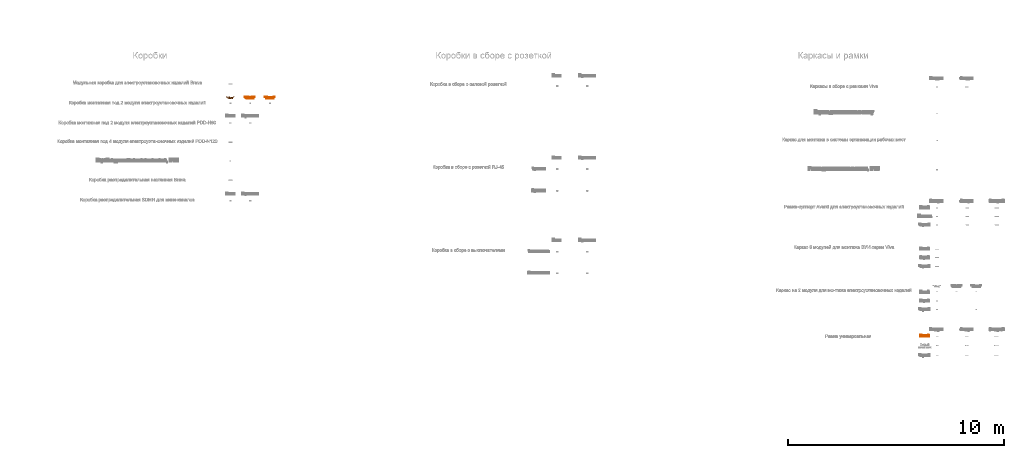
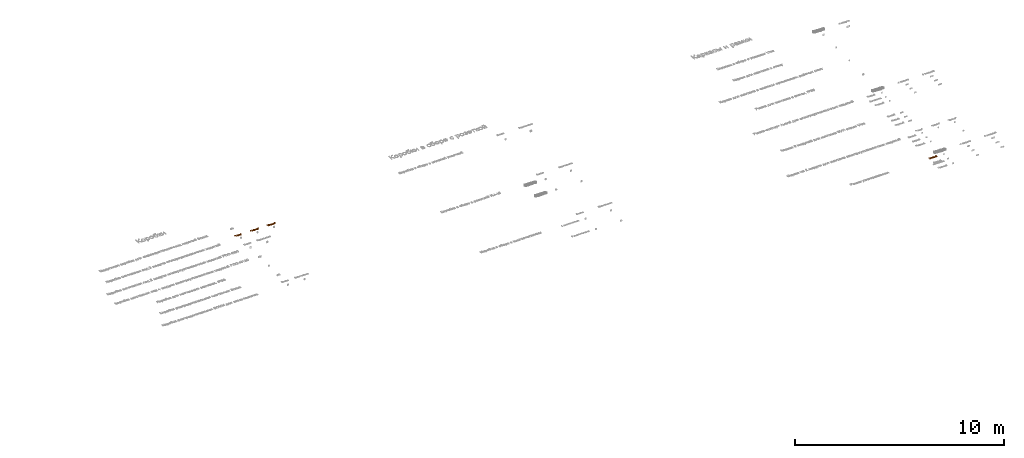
# One storey, part 59 of 87: 4 proxies.
"""IFC2X3 building model written with IfcOpenShell, lengths in millimetres."""

from ifc_helpers import new_model, entity, si_unit, converted_unit, derived_unit, direction, frame, frame_2d, origin, origin_2d_with_axis, place, context, subcontext, project, spatial, polyline, rectangle, outline, extrude, element, save


model = new_model("IFC2X3")

# Units and contexts
model_context = context("Model", 3, precision=0.01, world=origin(), true_north=direction((6.12303176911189e-17, 1.0)))
body_context = subcontext(model_context, "Body", "Model", "MODEL_VIEW")
ifc_project = project(units=[si_unit("LENGTHUNIT", "METRE", prefix="MILLI"), si_unit("AREAUNIT", "SQUARE_METRE"), si_unit("VOLUMEUNIT", "CUBIC_METRE"), converted_unit("PLANEANGLEUNIT", "DEGREE", entity("IfcRatioMeasure", 0.0174532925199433), si_unit("PLANEANGLEUNIT", "RADIAN"), dimensions=[0, 0, 0, 0, 0, 0, 0]), si_unit("MASSUNIT", "GRAM", prefix="KILO"), derived_unit("MASSDENSITYUNIT", [(si_unit("MASSUNIT", "GRAM", prefix="KILO"), 1), (si_unit("LENGTHUNIT", "METRE"), -3)]), si_unit("TIMEUNIT", "SECOND"), si_unit("FREQUENCYUNIT", "HERTZ"), si_unit("THERMODYNAMICTEMPERATUREUNIT", "DEGREE_CELSIUS"), derived_unit("THERMALTRANSMITTANCEUNIT", [(si_unit("MASSUNIT", "GRAM", prefix="KILO"), 1), (si_unit("THERMODYNAMICTEMPERATUREUNIT", "KELVIN"), -1), (si_unit("TIMEUNIT", "SECOND"), -3)]), derived_unit("VOLUMETRICFLOWRATEUNIT", [(si_unit("LENGTHUNIT", "METRE"), 3), (si_unit("TIMEUNIT", "SECOND"), -1)]), si_unit("ELECTRICCURRENTUNIT", "AMPERE"), si_unit("ELECTRICVOLTAGEUNIT", "VOLT"), si_unit("POWERUNIT", "WATT"), si_unit("FORCEUNIT", "NEWTON", prefix="KILO"), si_unit("ILLUMINANCEUNIT", "LUX"), si_unit("LUMINOUSFLUXUNIT", "LUMEN"), si_unit("LUMINOUSINTENSITYUNIT", "CANDELA"), derived_unit("USERDEFINED", [(si_unit("MASSUNIT", "GRAM", prefix="KILO"), -1), (si_unit("LENGTHUNIT", "METRE"), -2), (si_unit("TIMEUNIT", "SECOND"), 3), (si_unit("LUMINOUSFLUXUNIT", "LUMEN"), 1)]), derived_unit("LINEARVELOCITYUNIT", [(si_unit("LENGTHUNIT", "METRE"), 1), (si_unit("TIMEUNIT", "SECOND"), -1)]), si_unit("PRESSUREUNIT", "PASCAL"), derived_unit("USERDEFINED", [(si_unit("LENGTHUNIT", "METRE"), -2), (si_unit("MASSUNIT", "GRAM", prefix="KILO"), 1), (si_unit("TIMEUNIT", "SECOND"), -2)])], contexts=[model_context])

# Site, building, storey
site_placement = place(None, origin())
site = spatial("IfcSite", under=ifc_project, at=site_placement, Name="Default", CompositionType="ELEMENT")
building_placement = place(site_placement, origin())
building = spatial("IfcBuilding", under=site, at=building_placement, Name="Наименование здания", CompositionType="ELEMENT")
storey_placement = place(building_placement, origin())
storey = spatial("IfcBuildingStorey", under=building, at=storey_placement, Name="Этаж 01", CompositionType="ELEMENT", Elevation=0.0)

# Proxies
proxy_1_placement = place(storey_placement, origin())
element("IfcBuildingElementProxy", 1, at=proxy_1_placement, inside=storey, Name="Текст модели:100 мм Arial", ObjectType="Текст модели:100 мм Arial", context=body_context, shape_type="SweptSolid", body=[
    extrude(outline(polyline([(-3.26597460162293, -18.5003767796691), (3.47852864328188, -18.5003767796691), (6.22538087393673, 0.899267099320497), (6.22538087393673, 17.601109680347), (-6.3316578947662, 17.601109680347), (-6.3316578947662, 0.899267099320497), (-3.26597460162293, -18.5003767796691)])), frame((44429.8015234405, 3429.40875334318, 0.0)), (0.0, 0.0, 1.0), 20.0),
    extrude(outline(polyline([(-5.82071067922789, -52.1956424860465), (7.1532610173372, -52.1956424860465), (45.4375139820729, 48.2606676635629), (31.9975584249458, 48.2606676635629), (5.16669824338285, -24.1139835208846), (-0.179853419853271, -40.4234186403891), (-5.59998148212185, -24.1139835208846), (-32.3572652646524, 48.2606676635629), (-45.7972208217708, 48.2606676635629), (-5.82071067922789, -52.1956424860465)])), frame((44513.9034351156, 3398.74919535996, 0.0)), (0.0, 0.0, 1.0), 20.0),
    extrude(rectangle(XDim=12.5570387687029, YDim=73.7726027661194, at=frame_2d((0.0, -2.70006239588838e-13), x_axis=(1.0, 0.0))), frame((44575.7239606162, 3383.43985425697, 0.0)), (0.0, 0.0, 1.0), 20.0),
    extrude(outline(polyline([(-7.82362376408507, -40.9030277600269), (8.09340389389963, -40.9030277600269), (33.72251622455, 32.8695750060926), (20.4297134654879, 32.8695750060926), (4.61078767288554, -12.1591812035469), (-0.0245254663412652, -26.1877479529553), (-4.75794047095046, -11.3253153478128), (-20.4787643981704, 32.8695750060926), (-33.7715671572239, 32.8695750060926), (-7.82362376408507, -40.9030277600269)])), frame((44626.7614560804, 3387.45658063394, 0.0)), (0.0, 0.0, 1.0), 20.0),
    extrude(outline(polyline([(32.0508237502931, 7.88266535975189), (41.9780345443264, 7.88266535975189), (45.9489188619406, 19.795318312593), (35.1414436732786, 20.7608946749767), (14.2438893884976, 27.0545912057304), (-0.577126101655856, 31.9949297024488), (-11.1945882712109, 34.8877809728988), (-20.497470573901, 33.9299602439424), (-28.5323068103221, 27.5470739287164), (-35.4619652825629, 13.8157249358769), (-38.3044049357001, -2.69989645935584), (-34.9462156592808, -15.3493345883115), (-25.0306383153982, -24.3807697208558), (-19.5706723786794, -12.9644773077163), (-25.7868125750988, -4.50695904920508), (-24.0611841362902, 8.30922519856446), (-16.2279943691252, 20.3304570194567), (-6.33956174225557, 20.6794605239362), (-3.71040200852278, 19.7255176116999), (-6.50243004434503, -2.30048133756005), (-8.14662433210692, -13.2049019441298), (-7.01817966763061, -22.8490321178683), (-2.17478658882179, -31.1204151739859), (6.48825595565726, -36.5416029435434), (15.0010331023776, -37.702039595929), (22.9495879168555, -35.3200906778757), (29.6378522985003, -29.3899394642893), (34.369758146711, -19.9057692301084), (36.2737661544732, -6.36055543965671), (32.0508237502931, 7.88266535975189)]), holes=[polyline([(8.2255178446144, 15.824433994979), (11.5759514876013, 14.6300664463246), (20.1614376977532, 9.67421668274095), (24.4696920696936, -0.396473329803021), (23.3024692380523, -13.3987927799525), (17.249197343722, -22.9498553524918), (9.62153186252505, -24.3497471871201), (5.58084684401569, -21.1932043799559), (3.98706417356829, -15.504447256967), (5.47226797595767, -4.61166010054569), (8.2255178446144, 15.824433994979)])]), frame((44700.9467632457, 3383.88469547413, 0.0), z_axis=(0.0, 0.0, 1.0), x_axis=(0.316227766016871, -0.948683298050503, 0.0)), (0.0, 0.0, 1.0), 20.0),
    extrude(outline(polyline([(-3.26597460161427, -18.5003767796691), (3.47852864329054, -18.5003767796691), (6.22538087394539, 0.899267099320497), (6.22538087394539, 17.601109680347), (-6.33165789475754, 17.601109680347), (-6.33165789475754, 0.899267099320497), (-3.26597460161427, -18.5003767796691)])), frame((44751.5756418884, 3429.40875334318, 0.0)), (0.0, 0.0, 1.0), 20.0),
    extrude(outline(polyline([(-3.2945876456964, -18.5003767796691), (3.32728826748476, -18.5003767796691), (6.27034422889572, 0.899267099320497), (6.27034422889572, 17.601109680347), (-6.28669453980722, 17.601109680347), (-6.28669453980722, 0.899267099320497), (-3.2945876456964, -18.5003767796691)])), frame((44454.8706376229, 3429.40875334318, 0.0)), (0.0, 0.0, 1.0), 20.0),
    extrude(outline(polyline([(-3.29458764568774, -18.5003767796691), (3.32728826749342, -18.5003767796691), (6.27034422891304, 0.899267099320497), (6.27034422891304, 17.601109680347), (-6.28669453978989, 17.601109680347), (-6.28669453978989, 0.899267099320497), (-3.29458764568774, -18.5003767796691)])), frame((44776.6447560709, 3429.40875334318, 0.0)), (0.0, 0.0, 1.0), 20.0),
    extrude(rectangle(XDim=12.5570387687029, YDim=12.5570387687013, at=frame_2d((0.0, 2.70450328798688e-13), x_axis=(1.0, 0.0))), frame((44575.7239606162, 3440.73134363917, 0.0)), (0.0, 0.0, 1.0), 20.0),
])
proxy_2_placement = place(storey_placement, origin())
element("IfcBuildingElementProxy", 2, at=proxy_2_placement, inside=storey, Name="Текст модели:100 мм Arial", ObjectType="Текст модели:100 мм Arial", context=body_context, shape_type="SweptSolid", body=[
    extrude(outline(polyline([(-3.26597460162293, -18.500376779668), (3.47852864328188, -18.500376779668), (6.22538087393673, 0.89926709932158), (6.22538087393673, 17.6011096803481), (-6.3316578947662, 17.6011096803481), (-6.3316578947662, 0.89926709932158), (-3.26597460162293, -18.500376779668)])), frame((45293.8922013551, 3429.40875334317, 0.0)), (0.0, 0.0, 1.0), 20.0),
    extrude(outline(polyline([(-1.14154897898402, -36.3868737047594), (11.4154897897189, -36.3868737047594), (11.4154897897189, -12.8424260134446), (23.9725285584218, -12.8424260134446), (23.9725285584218, -0.285387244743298), (11.4154897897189, -0.285387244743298), (11.4154897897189, 62.4998065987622), (1.99771071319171, 62.4998065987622), (-46.6608145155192, -0.285387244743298), (-46.6608145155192, -12.8424260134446), (-1.14154897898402, -12.8424260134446), (-1.14154897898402, -36.3868737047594)]), holes=[polyline([(-1.14154897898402, -0.285387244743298), (-31.2097707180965, -0.285387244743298), (-1.14154897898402, 38.5139005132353), (-1.14154897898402, -0.285387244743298)])]), frame((45379.7406235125, 3382.94042657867, 0.0)), (0.0, 0.0, 1.0), 20.0),
    extrude(outline(polyline([(3.81439562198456, -37.2548959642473), (15.7323946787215, -37.2548959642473), (26.1588137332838, -33.0579698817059), (34.2921694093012, -25.0537205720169), (39.3309783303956, -13.631750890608), (40.2219288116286, 1.43409098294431), (34.3991305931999, 14.6815107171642), (25.5350217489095, 23.1481891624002), (13.9054384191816, 28.2770976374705), (0.912111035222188, 29.4702838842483), (-10.7159258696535, 25.7768606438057), (-19.74270741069, 18.0989984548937), (-24.9322687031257, 7.33886785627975), (-25.5937300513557, -2.21124798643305), (-22.6370240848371, -12.2793380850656), (-47.992493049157, 0.0204883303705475), (-38.0977082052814, 37.2324069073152), (-50.2330599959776, 40.4592412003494), (-62.7370428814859, -6.56524698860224), (-15.5021967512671, -30.4943712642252), (-10.7584434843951, -18.7623737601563), (-14.4216298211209, -10.4922324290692), (-13.698161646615, 0.722667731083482), (-9.98738154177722, 9.3572756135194), (-4.32553373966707, 14.6878856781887), (11.437063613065, 15.9400687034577), (19.748168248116, 12.2772427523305), (25.4355726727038, 6.40632241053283), (28.0665145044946, -1.27212018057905), (27.2082313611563, -10.3575128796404), (19.6530635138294, -21.9256319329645), (5.52431094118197, -24.7161898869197), (3.81439562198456, -37.2548959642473)])), frame((45449.7241723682, 3386.49710692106, 0.0), z_axis=(0.0, 0.0, 1.0), x_axis=(0.256974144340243, -0.966418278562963, 0.0)), (0.0, 0.0, 1.0), 20.0),
    extrude(outline(polyline([(-34.5302215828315, -38.4265006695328), (-19.4225343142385, -38.4265006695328), (-0.341721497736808, -12.0616243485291), (2.47870713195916, -16.1328517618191), (17.8561745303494, -38.4265006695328), (32.9638617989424, -38.4265006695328), (7.40832586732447, -1.34399555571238), (33.9448804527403, 35.3461020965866), (18.8371931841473, 35.3461020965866), (4.95577923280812, 16.1671874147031), (0.026160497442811, 9.34910777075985), (-5.663747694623, 17.6877663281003), (-17.8529044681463, 35.3461020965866), (-32.9605917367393, 35.3461020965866), (-7.69936140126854, -1.34399555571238), (-34.5302215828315, -38.4265006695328)])), frame((45521.4337554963, 3384.98005354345, 0.0)), (0.0, 0.0, 1.0), 20.0),
    extrude(outline(polyline([(-1.14154897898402, -36.3868737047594), (11.4154897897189, -36.3868737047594), (11.4154897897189, -12.8424260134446), (23.9725285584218, -12.8424260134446), (23.9725285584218, -0.285387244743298), (11.4154897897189, -0.285387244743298), (11.4154897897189, 62.4998065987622), (1.99771071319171, 62.4998065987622), (-46.6608145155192, -0.285387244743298), (-46.6608145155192, -12.8424260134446), (-1.14154897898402, -12.8424260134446), (-1.14154897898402, -36.3868737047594)]), holes=[polyline([(-1.14154897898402, -0.285387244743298), (-31.2097707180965, -0.285387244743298), (-1.14154897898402, 38.5139005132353), (-1.14154897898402, -0.285387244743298)])]), frame((45604.197691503, 3382.94042657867, 0.0)), (0.0, 0.0, 1.0), 20.0),
    extrude(outline(polyline([(3.81439562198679, -37.254895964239), (15.7323946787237, -37.254895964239), (26.158813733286, -33.0579698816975), (34.2921694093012, -25.0537205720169), (39.3309783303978, -13.6317508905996), (40.2219288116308, 1.43409098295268), (34.3991305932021, 14.6815107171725), (25.5350217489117, 23.1481891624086), (13.9054384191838, 28.2770976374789), (0.912111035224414, 29.4702838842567), (-10.7159258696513, 25.7768606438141), (-19.7427074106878, 18.0989984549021), (-24.9322687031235, 7.33886785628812), (-25.5937300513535, -2.21124798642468), (-22.6370240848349, -12.2793380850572), (-47.9924930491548, 0.0204883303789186), (-38.0977082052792, 37.2324069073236), (-50.2330599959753, 40.4592412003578), (-62.7370428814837, -6.56524698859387), (-15.5021967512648, -30.4943712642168), (-10.7584434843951, -18.7623737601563), (-14.4216298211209, -10.4922324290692), (-13.698161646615, 0.722667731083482), (-9.987381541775, 9.35727561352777), (-4.32553373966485, 14.6878856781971), (11.4370636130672, 15.9400687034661), (19.748168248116, 12.2772427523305), (25.4355726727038, 6.40632241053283), (28.0665145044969, -1.27212018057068), (27.2082313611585, -10.357512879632), (19.6530635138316, -21.9256319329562), (5.52431094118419, -24.7161898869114), (3.81439562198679, -37.254895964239)])), frame((45674.1812403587, 3386.49710692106, 0.0), z_axis=(0.0, 0.0, 1.0), x_axis=(0.256974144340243, -0.966418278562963, 0.0)), (0.0, 0.0, 1.0), 20.0),
    extrude(outline(polyline([(-3.26597460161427, -18.500376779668), (3.47852864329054, -18.500376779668), (6.22538087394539, 0.89926709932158), (6.22538087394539, 17.6011096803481), (-6.33165789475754, 17.6011096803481), (-6.33165789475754, 0.89926709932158), (-3.26597460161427, -18.500376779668)])), frame((45722.4011493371, 3429.40875334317, 0.0)), (0.0, 0.0, 1.0), 20.0),
    extrude(outline(polyline([(-3.2945876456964, -18.500376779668), (3.32728826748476, -18.500376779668), (6.27034422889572, 0.89926709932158), (6.27034422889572, 17.6011096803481), (-6.28669453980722, 17.6011096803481), (-6.28669453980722, 0.89926709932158), (-3.2945876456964, -18.500376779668)])), frame((45318.9613155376, 3429.40875334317, 0.0)), (0.0, 0.0, 1.0), 20.0),
    extrude(outline(polyline([(-3.29458764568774, -18.500376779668), (3.32728826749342, -18.500376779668), (6.27034422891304, 0.89926709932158), (6.27034422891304, 17.6011096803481), (-6.28669453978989, 17.6011096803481), (-6.28669453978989, 0.89926709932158), (-3.29458764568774, -18.500376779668)])), frame((45747.4702635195, 3429.40875334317, 0.0)), (0.0, 0.0, 1.0), 20.0),
])
proxy_3_placement = place(storey_placement, origin())
element("IfcBuildingElementProxy", 3, at=proxy_3_placement, inside=storey, Name="Текст модели:100 мм Arial", ObjectType="Текст модели:100 мм Arial", context=body_context, shape_type="SweptSolid", body=[
    extrude(outline(polyline([(-3.26597460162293, -18.500376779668), (3.47852864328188, -18.500376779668), (6.22538087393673, 0.89926709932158), (6.22538087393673, 17.6011096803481), (-6.3316578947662, 17.6011096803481), (-6.3316578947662, 0.89926709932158), (-3.26597460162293, -18.500376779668)])), frame((46214.9136283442, 3429.40875334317, 0.0)), (0.0, 0.0, 1.0), 20.0),
    extrude(outline(polyline([(-52.8068326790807, -48.690933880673), (-14.7678343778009, -48.690933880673), (1.33313427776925, -46.961888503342), (12.2592295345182, -41.860591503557), (19.580081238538, -32.2466086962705), (22.5353999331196, -18.7453394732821), (18.2066551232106, -3.1226174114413), (5.83355735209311, 6.24611073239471), (16.0238886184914, 15.1365922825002), (19.3961402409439, 26.8720279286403), (15.3862264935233, 39.7233722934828), (4.30071570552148, 48.8100575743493), (-14.4735287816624, 51.7653762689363), (-52.8068326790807, 51.7653762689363), (-52.8068326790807, -48.690933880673)]), holes=[polyline([(-40.2497939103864, 10.9550002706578), (-40.2497939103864, 39.208337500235), (-19.0597909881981, 39.208337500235), (-2.92203413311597, 37.8962250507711), (4.31297843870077, 33.0524454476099), (6.83910147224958, 24.8609396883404), (4.12903744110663, 16.6816966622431), (-3.92757825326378, 12.0341207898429), (-17.3184828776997, 10.9550002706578), (-40.2497939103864, 10.9550002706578)]), polyline([(-40.2497939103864, -36.1338951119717), (-40.2497939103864, -1.60203849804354), (-15.7243275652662, -1.60203849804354), (-0.21197010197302, -3.28203294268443), (7.57486546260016, -9.10683119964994), (9.97836116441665, -18.8679668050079), (7.93048472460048, -27.3292526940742), (2.70656039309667, -32.9087962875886), (-5.17837703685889, -35.6433857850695), (-14.4980542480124, -36.1338951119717), (-40.2497939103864, -36.1338951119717)])]), frame((46316.3258477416, 3395.24448675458, 0.0)), (0.0, 0.0, 1.0), 20.0),
    extrude(outline(polyline([(-17.4404364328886, -54.2805167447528), (-4.88339766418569, -54.2805167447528), (-4.88339766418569, -15.5057544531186), (-2.84778395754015, -0.839525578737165), (1.67716458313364, 6.02760499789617), (8.77728709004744, 8.50467709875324), (17.606454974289, 5.92950313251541), (21.8003097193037, 17.1866921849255), (9.19422001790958, 21.061715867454), (1.34607078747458, 18.6336946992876), (-6.45302751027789, 8.57825349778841), (-6.45302751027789, 19.4920860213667), (-17.4404364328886, 19.4920860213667), (-17.4404364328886, -54.2805167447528)])), frame((46371.9979825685, 3400.83406961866, 0.0)), (0.0, 0.0, 1.0), 20.0),
    extrude(outline(polyline([(32.0508237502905, 7.88266535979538), (41.9780345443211, 7.88266535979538), (45.9489188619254, 19.7953183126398), (35.1414436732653, 20.7608946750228), (14.2438893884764, 27.0545912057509), (-0.577126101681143, 31.994929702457), (-11.1945882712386, 34.8877809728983), (-20.4974705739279, 33.9299602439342), (-28.5323068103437, 27.5470739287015), (-35.4619652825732, 13.8157249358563), (-38.3044049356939, -2.6998964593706), (-34.9462156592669, -15.3493345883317), (-25.0306383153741, -24.3807697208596), (-19.5706723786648, -12.9644773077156), (-25.7868125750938, -4.5069590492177), (-24.0611841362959, 8.30922519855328), (-16.2279943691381, 20.3304570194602), (-6.33956174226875, 20.6794605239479), (-3.71040200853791, 19.7255176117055), (-6.50243004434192, -2.3004813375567), (-8.14662433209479, -13.2049019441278), (-7.0181796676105, -22.8490321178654), (-2.17478658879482, -31.1204151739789), (6.48825595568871, -36.5416029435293), (15.00103310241, -37.7020395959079), (22.9495879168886, -35.3200906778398), (29.6378522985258, -29.389939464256), (34.3697581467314, -19.905769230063), (36.2737661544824, -6.36055543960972), (32.0508237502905, 7.88266535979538)]), holes=[polyline([(8.22551784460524, 15.8244339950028), (11.5759514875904, 14.6300664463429), (20.1614376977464, 9.67421668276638), (24.4696920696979, -0.396473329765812), (23.3024692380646, -13.3987927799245), (17.2491973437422, -22.9498553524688), (9.6215318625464, -24.3497471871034), (5.58084684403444, -21.1932043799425), (3.98706417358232, -15.5044472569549), (5.47226797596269, -4.61166010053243), (8.22551784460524, 15.8244339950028)])]), frame((46431.1218235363, 3383.88469547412, 0.0), z_axis=(0.0, 0.0, 1.0), x_axis=(0.316227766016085, -0.948683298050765, 0.0)), (0.0, 0.0, 1.0), 20.0),
    extrude(outline(polyline([(-7.82362376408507, -40.9030277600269), (8.09340389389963, -40.9030277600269), (33.72251622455, 32.8695750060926), (20.4297134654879, 32.8695750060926), (4.61078767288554, -12.1591812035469), (-0.0245254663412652, -26.1877479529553), (-4.75794047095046, -11.3253153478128), (-20.4787643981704, 32.8695750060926), (-33.7715671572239, 32.8695750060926), (-7.82362376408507, -40.9030277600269)])), frame((46504.4817219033, 3387.45658063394, 0.0)), (0.0, 0.0, 1.0), 20.0),
    extrude(outline(polyline([(32.0508237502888, 7.88266535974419), (41.9780345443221, 7.88266535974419), (45.9489188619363, 19.7953183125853), (35.1414436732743, 20.760894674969), (14.2438893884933, 27.0545912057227), (-0.577126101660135, 31.9949297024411), (-11.1945882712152, 34.8877809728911), (-20.4974705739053, 33.9299602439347), (-28.5323068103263, 27.5470739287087), (-35.4619652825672, 13.8157249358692), (-38.3044049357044, -2.69989645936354), (-34.9462156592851, -15.3493345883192), (-25.0306383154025, -24.3807697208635), (-19.5706723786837, -12.964477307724), (-25.786812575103, -4.50695904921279), (-24.0611841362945, 8.30922519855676), (-16.2279943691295, 20.330457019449), (-6.33956174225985, 20.6794605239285), (-3.71040200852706, 19.7255176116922), (-6.50243004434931, -2.30048133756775), (-8.1466243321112, -13.2049019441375), (-7.01817966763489, -22.849032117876), (-2.17478658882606, -31.1204151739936), (6.48825595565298, -36.5416029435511), (15.0010331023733, -37.7020395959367), (22.9495879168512, -35.3200906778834), (29.637852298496, -29.389939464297), (34.3697581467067, -19.9057692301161), (36.2737661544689, -6.36055543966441), (32.0508237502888, 7.88266535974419)]), holes=[polyline([(8.22551784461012, 15.8244339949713), (11.575951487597, 14.6300664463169), (20.1614376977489, 9.67421668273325), (24.4696920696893, -0.396473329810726), (23.302469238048, -13.3987927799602), (17.2491973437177, -22.9498553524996), (9.62153186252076, -24.3497471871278), (5.58084684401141, -21.1932043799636), (3.98706417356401, -15.5044472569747), (5.47226797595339, -4.6116601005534), (8.22551784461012, 15.8244339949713)])]), frame((46578.6670290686, 3383.88469547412, 0.0), z_axis=(0.0, 0.0, 1.0), x_axis=(0.316227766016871, -0.948683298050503, 0.0)), (0.0, 0.0, 1.0), 20.0),
    extrude(outline(polyline([(-3.26597460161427, -18.500376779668), (3.47852864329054, -18.500376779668), (6.22538087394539, 0.89926709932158), (6.22538087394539, 17.6011096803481), (-6.33165789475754, 17.6011096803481), (-6.33165789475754, 0.89926709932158), (-3.26597460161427, -18.500376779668)])), frame((46629.2959077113, 3429.40875334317, 0.0)), (0.0, 0.0, 1.0), 20.0),
    extrude(outline(polyline([(-3.2945876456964, -18.500376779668), (3.32728826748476, -18.500376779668), (6.27034422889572, 0.89926709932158), (6.27034422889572, 17.6011096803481), (-6.28669453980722, 17.6011096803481), (-6.28669453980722, 0.89926709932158), (-3.2945876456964, -18.500376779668)])), frame((46239.9827425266, 3429.40875334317, 0.0)), (0.0, 0.0, 1.0), 20.0),
    extrude(outline(polyline([(-3.29458764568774, -18.500376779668), (3.32728826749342, -18.500376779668), (6.27034422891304, 0.89926709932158), (6.27034422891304, 17.6011096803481), (-6.28669453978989, 17.6011096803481), (-6.28669453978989, 0.89926709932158), (-3.29458764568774, -18.500376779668)])), frame((46654.3650218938, 3429.40875334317, 0.0)), (0.0, 0.0, 1.0), 20.0),
])
proxy_4_placement = place(storey_placement, origin())
element("IfcBuildingElementProxy", 4, at=proxy_4_placement, inside=storey, Name="Текст модели:100 мм Arial", ObjectType="Текст модели:100 мм Arial", context=body_context, shape_type="SweptSolid", body=[
    extrude(outline(polyline([(-50.9950475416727, -42.7620371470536), (49.4612626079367, -42.7620371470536), (49.4612626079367, -4.42873324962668), (45.2428823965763, 17.8649156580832), (34.3658380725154, 27.7118903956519), (20.055228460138, 31.0105656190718), (3.57411507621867, 26.375252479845), (-6.06439319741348, 14.0389429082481), (-8.61504169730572, -6.68507615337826), (-8.61504169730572, -30.2049983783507), (-38.4380087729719, -30.2049983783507), (-38.4380087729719, 20.0231566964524), (-50.9950475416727, 20.0231566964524), (-50.9950475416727, -42.7620371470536)]), holes=[polyline([(36.9042238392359, -30.2049983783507), (3.94199707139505, -30.2049983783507), (3.94199707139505, -12.2523570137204), (5.24184678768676, 6.66904027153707), (10.4902965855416, 15.3387926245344), (20.3250085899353, 18.4535268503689), (27.5784152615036, 17.0923634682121), (32.7594200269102, 13.0088733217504), (36.9042238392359, -3.30056179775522), (36.9042238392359, -30.2049983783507)])]), frame((76564.9159480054, -7617.77974760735, 0.0), z_axis=(0.0, 0.0, 1.0), x_axis=(0.0, -1.0, 0.0)), (0.0, 0.0, 1.0), 20.0),
    extrude(outline(polyline([(-8.10128238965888, -20.3751729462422), (-15.5352214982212, -30.3140016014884), (-5.7840037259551, -33.5775071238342), (4.12185089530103, -33.3132173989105), (13.8776168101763, -29.4480778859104), (23.1785684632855, -21.9090340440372), (31.6380426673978, -9.59237957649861), (34.1620486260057, 3.74135328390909), (30.6040508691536, 17.2442201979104), (20.817513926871, 30.0682768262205), (7.27698270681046, 39.7846728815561), (-6.66179525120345, 43.1117813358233), (-19.9642596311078, 40.422123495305), (-31.5958501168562, 32.0882206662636), (-39.2435519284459, 20.5090048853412), (-41.3106827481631, 7.34319797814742), (-37.4373707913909, -6.34962495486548), (-27.263744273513, -19.5098888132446), (-24.7804584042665, -21.8106804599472), (14.4643272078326, 18.7422646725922), (19.7071986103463, 10.6437992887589), (21.1614672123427, 2.21005051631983), (19.1472085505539, -5.98136753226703), (13.9844981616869, -13.3528407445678), (3.53684605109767, -20.3751729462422), (-8.10128238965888, -20.3751729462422)]), holes=[polyline([(5.44081225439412, 27.4746984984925), (-25.1227061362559, -4.10760383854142), (-29.8038819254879, 7.41909510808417), (-27.8851342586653, 15.7498710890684), (-22.5382240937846, 23.3910349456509), (-8.40970331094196, 31.2368652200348), (-1.08072680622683, 30.9147288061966), (5.44081225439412, 27.4746984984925)])]), frame((76642.997995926, -7636.91845939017, 0.0), z_axis=(0.0, 0.0, -1.0), x_axis=(-0.695421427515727, -0.718602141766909, 0.0)), (0.0, 0.0, -1.0), 20.0),
    extrude(outline(polyline([(-49.3689973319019, 12.5447760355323), (-49.3689973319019, -43.9618984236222), (24.3300290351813, -43.9618984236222), (24.3300290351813, -31.4048596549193), (-36.8119585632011, -31.4048596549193), (-36.8119585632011, -0.0122627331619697), (-1.61791435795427, -0.0122627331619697), (14.6179443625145, 0.833865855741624), (21.4728122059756, 5.48144172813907), (24.403605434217, 16.4688506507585), (23.7659433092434, 26.6714446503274), (11.8465666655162, 26.6714446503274), (11.8465666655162, 21.0551128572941), (11.0740144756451, 15.3774673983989), (8.62146784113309, 13.1088617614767), (-2.32915288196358, 12.5447760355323), (-49.3689973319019, 12.5447760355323)])), frame((76707.3579699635, -7642.83740478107, 0.0), z_axis=(0.0, 0.0, -1.0), x_axis=(0.0, -1.0, 0.0)), (0.0, 0.0, -1.0), 20.0),
    extrude(outline(polyline([(-42.3988715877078, -34.5139341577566), (31.3737311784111, -34.5139341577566), (31.3737311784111, -3.73447389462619), (29.6538828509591, 9.3161398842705), (24.4943378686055, 18.2526066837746), (16.9129030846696, 23.4121516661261), (7.92738535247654, 25.1319999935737), (-1.94104916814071, 23.081057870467), (-9.42438208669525, 16.9282315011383), (-14.1424686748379, 6.9862205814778), (-15.7151642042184, -6.43227519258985), (-15.7151642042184, -21.9568953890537), (-42.3988715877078, -21.9568953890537), (-42.3988715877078, -34.5139341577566)]), holes=[polyline([(18.8166924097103, -21.9568953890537), (-3.15812543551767, -21.9568953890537), (-3.15812543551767, -7.41329384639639), (0.226388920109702, 8.88387853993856), (7.95191081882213, 12.5749612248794), (16.1802047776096, 7.59629155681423), (18.8166924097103, -9.05650009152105), (18.8166924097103, -21.9568953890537)])]), frame((76804.6693606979, -7635.86727903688, 0.0), z_axis=(0.0, 0.0, 1.0), x_axis=(0.0, -1.0, 0.0)), (0.0, 0.0, 1.0), 20.0),
    extrude(outline(polyline([(-11.1429830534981, -6.65049913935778), (-15.3141401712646, -15.0941956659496), (-0.092219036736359, -15.8161107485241), (10.2631635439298, -5.84547547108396), (12.4162171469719, 9.42172447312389), (2.76087400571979, 21.4951559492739), (-1.41028311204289, 13.0514594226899), (3.36929976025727, 6.75127419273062), (2.31913688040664, -0.662833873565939), (-3.1690659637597, -6.65049913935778), (-11.1429830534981, -6.65049913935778)])), frame((76900.5242217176, -7573.82964027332, 0.0), z_axis=(0.0, 0.0, -1.0), x_axis=(-0.442902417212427, -0.896569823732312, 0.0)), (0.0, 0.0, -1.0), 20.0),
    extrude(outline(polyline([(-36.9206370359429, -29.8425874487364), (36.851965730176, -29.8425874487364), (36.851965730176, -13.4105249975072), (-19.0660975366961, 17.2463079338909), (36.851965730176, 17.2463079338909), (36.851965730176, 29.8033467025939), (-36.9206370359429, 29.8033467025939), (-36.9206370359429, 13.5674879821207), (19.3407827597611, -17.2855486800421), (-36.9206370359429, -17.2855486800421), (-36.9206370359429, -29.8425874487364)])), frame((76900.4543241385, -7630.38904448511, 0.0), z_axis=(0.0, 0.0, 1.0), x_axis=(0.0, -1.0, 0.0)), (0.0, 0.0, 1.0), 20.0),
    extrude(rectangle(XDim=73.7726027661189, YDim=12.5570387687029, at=origin_2d_with_axis()), frame((76845.4976591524, -7630.35470883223, 0.0), z_axis=(0.0, 0.0, 1.0), x_axis=(0.0, -1.0, 0.0)), (0.0, 0.0, 1.0), 20.0),
])

save(model, "model.ifc")
